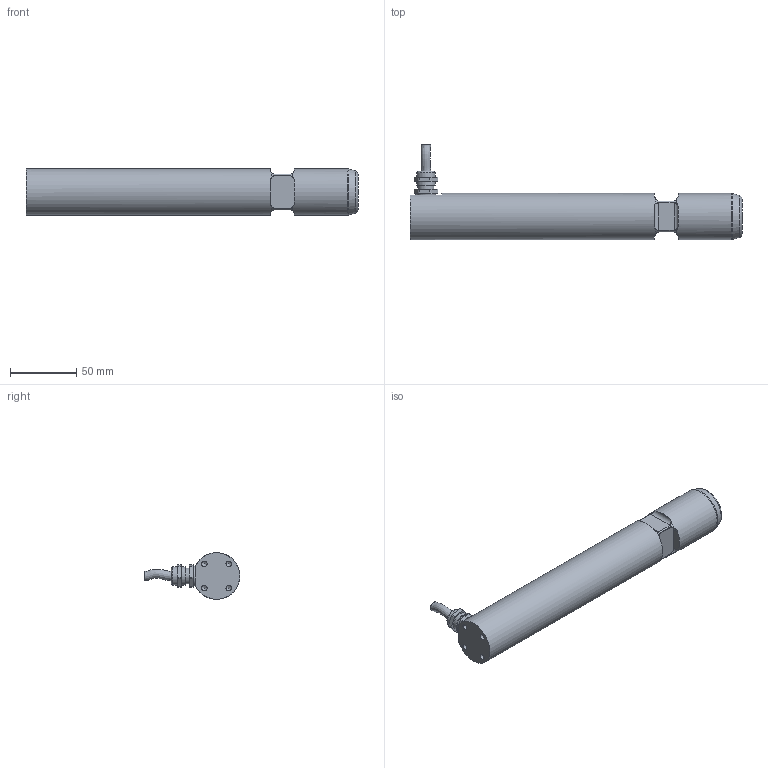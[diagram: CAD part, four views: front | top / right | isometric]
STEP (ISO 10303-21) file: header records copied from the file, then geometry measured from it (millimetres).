
FILE_DESCRIPTION(/* description */ ('Alibre Inc.'),/* implementation_level */ '2;1');
FILE_NAME(/* name */ 'export0',/* time_stamp */ '2011-08-11T16:28:32+02:00',/* author */ (''),/* organization */ (''),/* preprocessor_version */ 'ST-DEVELOPER v10',/* originating_system */ 'Alibre',/* authorisation */ '');
FILE_SCHEMA (('CONFIG_CONTROL_DESIGN'));
Length unit declared in the file: centimetre
Products named in the file (6): ID_1
Bounding box: 250 x 71.93 x 35 mm (x, y, z)
Volume: 234883.8 mm3; surface area: 33286.6 mm2
Topology: 4 solids, 4 shells, 104 faces, 265 edges, 173 vertices
Faces by surface type: plane 52, cylinder 41, cone 6, torus 4, bspline 1
Full cylindrical faces by diameter (mm): 4.134 x4, 7 x2, 10.376 x1, 12 x2, 13.7 x1, 14 x1, 35 x2
Entity records: 4348 total; most frequent: CARTESIAN_POINT 1570, ORIENTED_EDGE 468, DIRECTION 370, EDGE_CURVE 234, VERTEX_POINT 170, AXIS2_PLACEMENT_3D 150, FACE_BOUND 138, EDGE_LOOP 133
